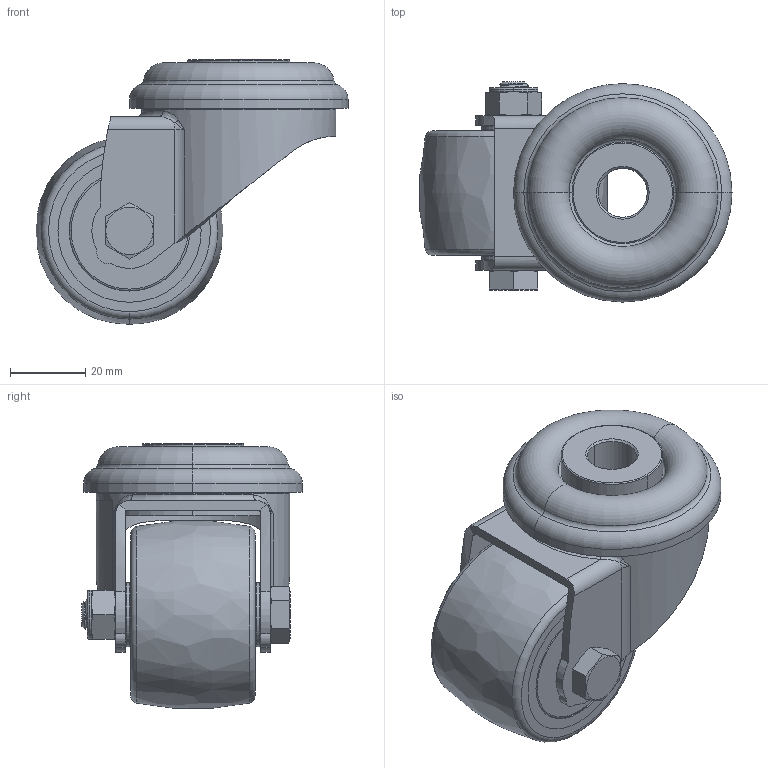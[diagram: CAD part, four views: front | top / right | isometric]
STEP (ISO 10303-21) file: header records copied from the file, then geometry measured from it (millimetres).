
FILE_DESCRIPTION((''),'2;1');
FILE_NAME('202636_ASM','2020-06-05T',('Administrator'),(''),'PRO/ENGINEER BY PARAMETRIC TECHNOLOGY CORPORATION, 2012480','PRO/ENGINEER BY PARAMETRIC TECHNOLOGY CORPORATION, 2012480','');
FILE_SCHEMA(('CONFIG_CONTROL_DESIGN'));
Length unit declared in the file: millimetre
Products named in the file (14): 321271-11; 321270-11; 500260-500263_6; 320439-11; 500259-500262_5; 500304; 330969; 330969-02; 500035_6201_32X12X10; 500683; 500304-M8-50; 500159_M8; 330969-01_ASM; 202636_ASM
Assembly tree (58 placements, depth 3):
  202636_ASM
    321271-11
    321270-11
    500260-500263_6  x20
    320439-11
    500259-500262_5  x25
    500304
    330969-01_ASM
      330969
      330969-02
      500035_6201_32X12X10  x2
      500683  x2
      500304-M8-50
      500159_M8
Bounding box: 82.83 x 58.5 x 70.23 mm (x, y, z)
Volume: 90531 mm3; surface area: 59451.5 mm2
Topology: 57 solids, 57 shells, 406 faces, 988 edges, 527 vertices
Faces by surface type: cylinder 112, sphere 90, torus 78, plane 56, bspline 40, cone 30
Entity records: 14096 total; most frequent: CARTESIAN_POINT 7121, DIRECTION 1461, ORIENTED_EDGE 1320, EDGE_CURVE 660, AXIS2_PLACEMENT_3D 640, VERTEX_POINT 405, EDGE_LOOP 321, CIRCLE 311
